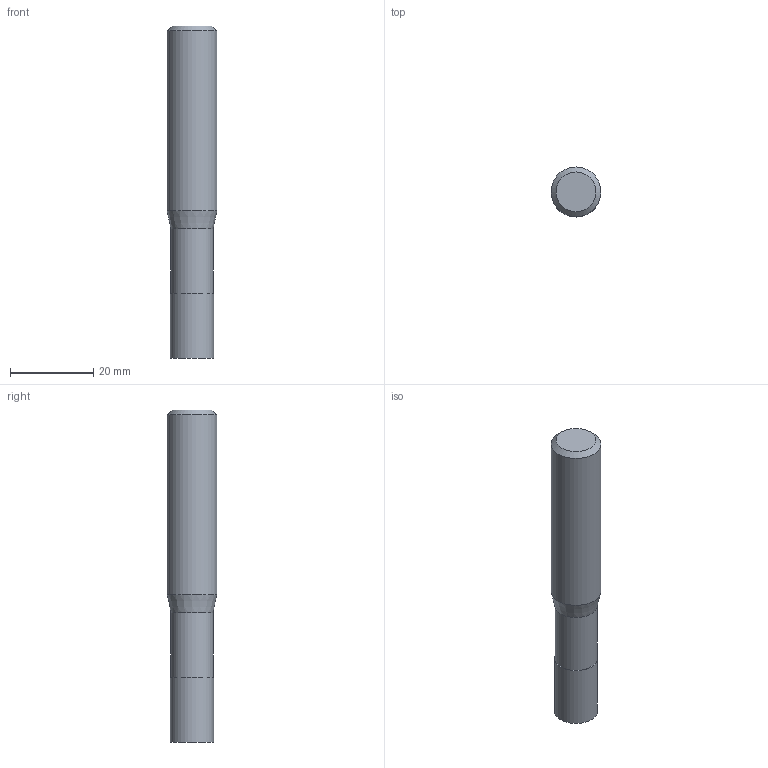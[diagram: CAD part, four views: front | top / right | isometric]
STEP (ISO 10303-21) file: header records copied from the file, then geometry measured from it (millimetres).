
FILE_DESCRIPTION((''),'2;1');
FILE_NAME('C:\Users\nsx150\AppData\Local\Temp\Mastercam 2021\EUJSUNXURU\TEMP.step','2021-04-22T10:30:04',(''),(''),'STEP Write','Mastercam 2021 ... CNC Software, Inc.','');
FILE_SCHEMA(('AUTOMOTIVE_DESIGN'));
Length unit declared in the file: millimetre
Products named in the file (1): None
Bounding box: 12 x 12 x 80 mm (x, y, z)
Volume: 8025.5 mm3; surface area: 3177 mm2
Topology: 2 solids, 2 shells, 9 faces, 12 edges, 7 vertices
Faces by surface type: plane 4, cylinder 3, cone 2
Full cylindrical faces by diameter (mm): 10.2 x1, 10.4 x1, 12 x1
Entity records: 211 total; most frequent: DIRECTION 36, CARTESIAN_POINT 25, AXIS2_PLACEMENT_3D 18, ORIENTED_EDGE 14, EDGE_LOOP 14, STYLED_ITEM 12, ADVANCED_FACE 9, FACE_BOUND 8
